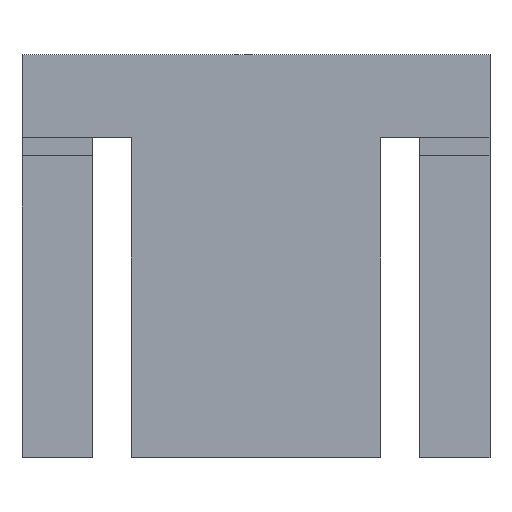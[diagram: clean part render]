
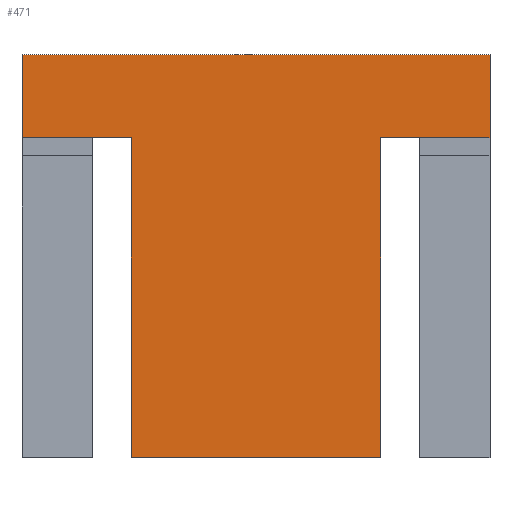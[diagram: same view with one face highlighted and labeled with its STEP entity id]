
A CAD part, left-side view. The second image highlights one B-rep face of the part: STEP entity #471.
In plain terms, the highlighted planar face has unit normal (-1, 0, 0).
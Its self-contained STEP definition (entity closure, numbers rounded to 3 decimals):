
#25=FACE_OUTER_BOUND('',#49,.T.);
#49=EDGE_LOOP('',(#367,#368,#369,#370,#371,#372,#373,#374));
#82=LINE('',#681,#148);
#95=LINE('',#706,#161);
#99=LINE('',#713,#165);
#101=LINE('',#719,#167);
#102=LINE('',#721,#168);
#103=LINE('',#722,#169);
#104=LINE('',#724,#170);
#105=LINE('',#725,#171);
#148=VECTOR('',#554,1.);
#161=VECTOR('',#573,1.);
#165=VECTOR('',#577,1.);
#167=VECTOR('',#585,1.);
#168=VECTOR('',#586,1.);
#169=VECTOR('',#587,1.);
#170=VECTOR('',#588,1.);
#171=VECTOR('',#589,1.);
#210=VERTEX_POINT('',#678);
#211=VERTEX_POINT('',#680);
#219=VERTEX_POINT('',#703);
#220=VERTEX_POINT('',#705);
#223=VERTEX_POINT('',#711);
#224=VERTEX_POINT('',#718);
#225=VERTEX_POINT('',#720);
#226=VERTEX_POINT('',#723);
#258=EDGE_CURVE('',#210,#211,#82,.T.);
#271=EDGE_CURVE('',#219,#220,#95,.T.);
#275=EDGE_CURVE('',#223,#210,#99,.T.);
#277=EDGE_CURVE('',#223,#224,#101,.T.);
#278=EDGE_CURVE('',#225,#224,#102,.T.);
#279=EDGE_CURVE('',#220,#225,#103,.T.);
#280=EDGE_CURVE('',#219,#226,#104,.T.);
#281=EDGE_CURVE('',#226,#211,#105,.T.);
#367=ORIENTED_EDGE('',*,*,#277,.T.);
#368=ORIENTED_EDGE('',*,*,#278,.F.);
#369=ORIENTED_EDGE('',*,*,#279,.F.);
#370=ORIENTED_EDGE('',*,*,#271,.F.);
#371=ORIENTED_EDGE('',*,*,#280,.T.);
#372=ORIENTED_EDGE('',*,*,#281,.T.);
#373=ORIENTED_EDGE('',*,*,#258,.F.);
#374=ORIENTED_EDGE('',*,*,#275,.F.);
#447=PLANE('',#509);
#471=ADVANCED_FACE('',(#25),#447,.F.);
#509=AXIS2_PLACEMENT_3D('',#717,#583,#584);
#554=DIRECTION('',(0.,0.,1.));
#573=DIRECTION('',(0.,1.,0.));
#577=DIRECTION('',(0.,1.,0.));
#583=DIRECTION('center_axis',(1.,0.,0.));
#584=DIRECTION('ref_axis',(0.,0.,-1.));
#585=DIRECTION('',(0.,0.,-1.));
#586=DIRECTION('',(0.,1.,0.));
#587=DIRECTION('',(0.,0.,-1.));
#588=DIRECTION('',(0.,0.,1.));
#589=DIRECTION('',(0.,1.,0.));
#678=CARTESIAN_POINT('',(32.6,-1.5,-6.05));
#680=CARTESIAN_POINT('',(32.6,-1.5,-4.45));
#681=CARTESIAN_POINT('',(32.6,-1.5,-6.05));
#703=CARTESIAN_POINT('',(32.6,-10.5,-6.05));
#705=CARTESIAN_POINT('',(32.6,-8.4,-6.05));
#706=CARTESIAN_POINT('',(32.6,-6.,-6.05));
#711=CARTESIAN_POINT('',(32.6,-3.6,-6.05));
#713=CARTESIAN_POINT('',(32.6,-6.,-6.05));
#717=CARTESIAN_POINT('Origin',(32.6,-6.,-8.625));
#718=CARTESIAN_POINT('',(32.6,-3.6,-12.2));
#719=CARTESIAN_POINT('',(32.6,-3.6,-8.625));
#720=CARTESIAN_POINT('',(32.6,-8.4,-12.2));
#721=CARTESIAN_POINT('',(32.6,-6.,-12.2));
#722=CARTESIAN_POINT('',(32.6,-8.4,-8.625));
#723=CARTESIAN_POINT('',(32.6,-10.5,-4.45));
#724=CARTESIAN_POINT('',(32.6,-10.5,-6.05));
#725=CARTESIAN_POINT('',(32.6,-10.5,-4.45));
